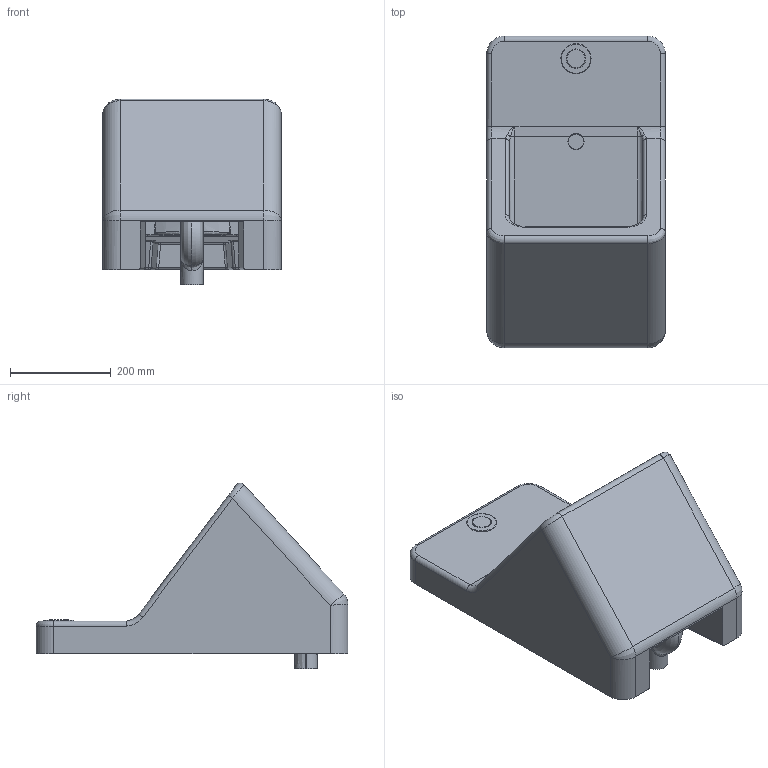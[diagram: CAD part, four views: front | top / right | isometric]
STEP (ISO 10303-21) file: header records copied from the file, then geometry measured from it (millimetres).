
FILE_DESCRIPTION (( 'STEP AP203' ), '1' );
FILE_NAME ('TP640.STEP', '2022-04-25T06:50:41', ( '' ), ( '' ), 'SwSTEP 2.0', 'SolidWorks 2021', '' );
FILE_SCHEMA (( 'CONFIG_CONTROL_DESIGN' ));
Length unit declared in the file: millimetre
Products named in the file (1): TP640
Bounding box: 355 x 620 x 369.58 mm (x, y, z)
Volume: 18332673 mm3; surface area: 1031842.7 mm2
Topology: 3 solids, 3 shells, 236 faces, 562 edges, 321 vertices
Faces by surface type: cylinder 89, bspline 76, plane 43, torus 16, sphere 12
Entity records: 21884 total; most frequent: CARTESIAN_POINT 17067, ORIENTED_EDGE 1098, DIRECTION 880, EDGE_CURVE 549, AXIS2_PLACEMENT_3D 346, VERTEX_POINT 319, EDGE_LOOP 240, FACE_OUTER_BOUND 236
